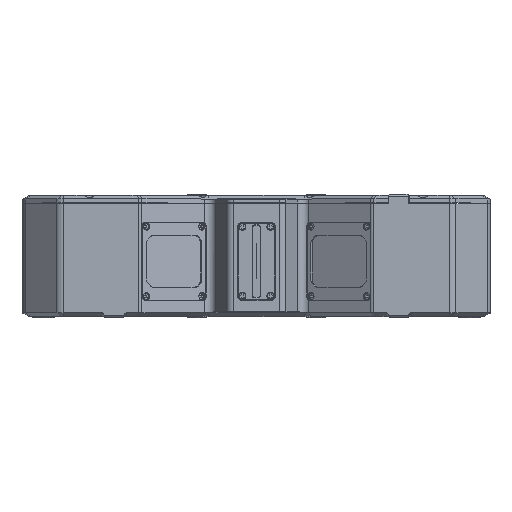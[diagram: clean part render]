
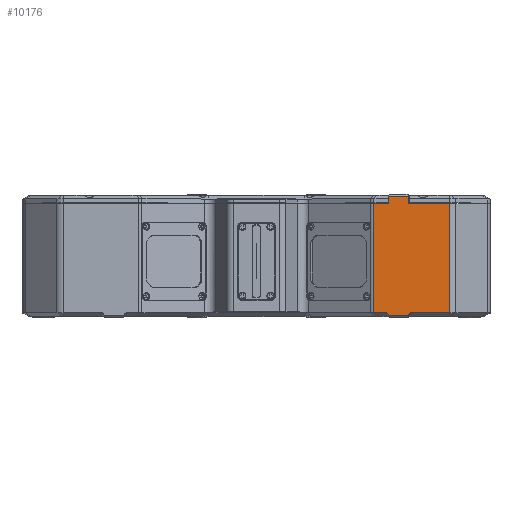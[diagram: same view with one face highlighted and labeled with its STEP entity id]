
A CAD part, top view. The second image highlights one B-rep face of the part: STEP entity #10176.
In plain terms, the highlighted planar face has unit normal (0, 0, -1).
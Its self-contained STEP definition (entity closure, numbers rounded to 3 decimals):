
#1533=DIRECTION('',(0.,1.,0.));
#1534=VECTOR('',#1533,59.5);
#1535=CARTESIAN_POINT('',(105.179,-26.75,53.));
#1536=LINE('',#1535,#1534);
#1546=DIRECTION('',(-1.,0.,0.));
#1547=VECTOR('',#1546,22.179);
#1548=CARTESIAN_POINT('',(105.179,32.75,53.));
#1549=LINE('',#1548,#1547);
#1550=DIRECTION('',(-1.,0.,0.));
#1551=VECTOR('',#1550,7.964);
#1552=CARTESIAN_POINT('',(72.,32.75,53.));
#1553=LINE('',#1552,#1551);
#1554=CARTESIAN_POINT('',(70.6,-26.75,53.));
#1555=CARTESIAN_POINT('',(70.629,-26.75,53.));
#1556=CARTESIAN_POINT('',(70.686,-26.752,53.));
#1557=CARTESIAN_POINT('',(70.774,-26.762,53.));
#1558=CARTESIAN_POINT('',(70.859,-26.777,53.));
#1559=CARTESIAN_POINT('',(70.943,-26.798,53.));
#1560=CARTESIAN_POINT('',(71.028,-26.826,53.));
#1561=CARTESIAN_POINT('',(71.111,-26.86,53.));
#1562=CARTESIAN_POINT('',(71.195,-26.902,53.));
#1563=CARTESIAN_POINT('',(71.274,-26.948,53.));
#1564=CARTESIAN_POINT('',(71.354,-27.003,53.));
#1565=CARTESIAN_POINT('',(71.429,-27.062,53.));
#1566=CARTESIAN_POINT('',(71.503,-27.129,53.));
#1567=CARTESIAN_POINT('',(71.574,-27.203,53.));
#1568=CARTESIAN_POINT('',(71.641,-27.282,53.));
#1569=CARTESIAN_POINT('',(71.704,-27.369,53.));
#1570=CARTESIAN_POINT('',(71.763,-27.462,53.));
#1571=CARTESIAN_POINT('',(71.816,-27.561,53.));
#1572=CARTESIAN_POINT('',(71.864,-27.666,53.));
#1573=CARTESIAN_POINT('',(71.905,-27.773,53.));
#1574=CARTESIAN_POINT('',(71.94,-27.891,53.));
#1575=CARTESIAN_POINT('',(71.968,-28.01,53.));
#1576=CARTESIAN_POINT('',(71.987,-28.131,53.));
#1577=CARTESIAN_POINT('',(71.994,-28.21,53.));
#1578=CARTESIAN_POINT('',(71.997,-28.25,53.));
#1580=CARTESIAN_POINT('',(83.003,-28.25,53.));
#1581=CARTESIAN_POINT('',(83.006,-28.211,53.));
#1582=CARTESIAN_POINT('',(83.013,-28.135,53.));
#1583=CARTESIAN_POINT('',(83.031,-28.019,53.));
#1584=CARTESIAN_POINT('',(83.056,-27.905,53.));
#1585=CARTESIAN_POINT('',(83.09,-27.791,53.));
#1586=CARTESIAN_POINT('',(83.127,-27.687,53.));
#1587=CARTESIAN_POINT('',(83.173,-27.584,53.));
#1588=CARTESIAN_POINT('',(83.224,-27.486,53.));
#1589=CARTESIAN_POINT('',(83.281,-27.392,53.));
#1590=CARTESIAN_POINT('',(83.343,-27.304,53.));
#1591=CARTESIAN_POINT('',(83.408,-27.222,53.));
#1592=CARTESIAN_POINT('',(83.478,-27.147,53.));
#1593=CARTESIAN_POINT('',(83.553,-27.077,53.));
#1594=CARTESIAN_POINT('',(83.628,-27.016,53.));
#1595=CARTESIAN_POINT('',(83.71,-26.958,53.));
#1596=CARTESIAN_POINT('',(83.791,-26.909,53.));
#1597=CARTESIAN_POINT('',(83.878,-26.865,53.));
#1598=CARTESIAN_POINT('',(83.963,-26.829,53.));
#1599=CARTESIAN_POINT('',(84.051,-26.8,53.));
#1600=CARTESIAN_POINT('',(84.138,-26.777,53.));
#1601=CARTESIAN_POINT('',(84.225,-26.762,53.));
#1602=CARTESIAN_POINT('',(84.314,-26.752,53.));
#1603=CARTESIAN_POINT('',(84.372,-26.75,53.));
#1604=CARTESIAN_POINT('',(84.4,-26.75,53.));
#1610=DIRECTION('',(-1.,0.,0.));
#1611=VECTOR('',#1610,20.779);
#1612=CARTESIAN_POINT('',(105.179,-26.75,53.));
#1613=LINE('',#1612,#1611);
#1618=DIRECTION('',(-1.,0.,0.));
#1619=VECTOR('',#1618,11.007);
#1620=CARTESIAN_POINT('',(83.003,-28.25,53.));
#1621=LINE('',#1620,#1619);
#1698=DIRECTION('',(-1.,0.,0.));
#1699=VECTOR('',#1698,6.542);
#1700=CARTESIAN_POINT('',(70.6,-26.75,53.));
#1701=LINE('',#1700,#1699);
#1710=CARTESIAN_POINT('',(64.036,-26.75,53.));
#1711=CARTESIAN_POINT('',(64.043,-26.75,53.));
#1712=CARTESIAN_POINT('',(64.051,-26.75,53.));
#1713=CARTESIAN_POINT('',(64.058,-26.75,53.));
#4591=DIRECTION('',(0.,-1.,0.));
#4592=VECTOR('',#4591,59.5);
#4593=CARTESIAN_POINT('',(64.036,32.75,53.));
#4594=LINE('',#4593,#4592);
#6465=DIRECTION('',(1.,0.,0.));
#6466=VECTOR('',#6465,11.);
#6467=CARTESIAN_POINT('',(72.,36.75,53.));
#6468=LINE('',#6467,#6466);
#6481=DIRECTION('',(0.,1.,0.));
#6482=VECTOR('',#6481,4.);
#6483=CARTESIAN_POINT('',(72.,32.75,53.));
#6484=LINE('',#6483,#6482);
#6517=DIRECTION('',(0.,-1.,0.));
#6518=VECTOR('',#6517,4.);
#6519=CARTESIAN_POINT('',(83.,36.75,53.));
#6520=LINE('',#6519,#6518);
#8410=CARTESIAN_POINT('',(105.179,32.75,53.));
#8411=CARTESIAN_POINT('',(83.,32.75,53.));
#8412=VERTEX_POINT('',#8410);
#8413=VERTEX_POINT('',#8411);
#8414=CARTESIAN_POINT('',(72.,32.75,53.));
#8415=CARTESIAN_POINT('',(64.036,32.75,53.));
#8416=VERTEX_POINT('',#8414);
#8417=VERTEX_POINT('',#8415);
#9048=CARTESIAN_POINT('',(105.179,-26.75,53.));
#9049=CARTESIAN_POINT('',(84.4,-26.75,53.));
#9050=VERTEX_POINT('',#9048);
#9051=VERTEX_POINT('',#9049);
#9052=VERTEX_POINT('',#1580);
#9053=CARTESIAN_POINT('',(71.997,-28.25,53.));
#9054=VERTEX_POINT('',#9053);
#9055=VERTEX_POINT('',#1554);
#9056=CARTESIAN_POINT('',(64.058,-26.75,53.));
#9057=VERTEX_POINT('',#9056);
#9058=VERTEX_POINT('',#1710);
#9059=CARTESIAN_POINT('',(72.,36.75,53.));
#9060=VERTEX_POINT('',#9059);
#9061=CARTESIAN_POINT('',(83.,36.75,53.));
#9062=VERTEX_POINT('',#9061);
#10144=CARTESIAN_POINT('',(84.607,4.25,53.));
#10145=DIRECTION('',(0.,0.,1.));
#10146=DIRECTION('',(1.,0.,0.));
#10147=AXIS2_PLACEMENT_3D('',#10144,#10145,#10146);
#10148=PLANE('',#10147);
#10150=ORIENTED_EDGE('',*,*,#10149,.F.);
#10151=ORIENTED_EDGE('',*,*,#10134,.T.);
#10153=ORIENTED_EDGE('',*,*,#10152,.T.);
#10155=ORIENTED_EDGE('',*,*,#10154,.F.);
#10157=ORIENTED_EDGE('',*,*,#10156,.F.);
#10159=ORIENTED_EDGE('',*,*,#10158,.F.);
#10161=ORIENTED_EDGE('',*,*,#10160,.T.);
#10163=ORIENTED_EDGE('',*,*,#10162,.T.);
#10165=ORIENTED_EDGE('',*,*,#10164,.T.);
#10167=ORIENTED_EDGE('',*,*,#10166,.F.);
#10169=ORIENTED_EDGE('',*,*,#10168,.T.);
#10171=ORIENTED_EDGE('',*,*,#10170,.F.);
#10173=ORIENTED_EDGE('',*,*,#10172,.T.);
#10174=EDGE_LOOP('',(#10150,#10151,#10153,#10155,#10157,#10159,#10161,#10163,
#10165,#10167,#10169,#10171,#10173));
#10175=FACE_OUTER_BOUND('',#10174,.F.);
#10176=ADVANCED_FACE('',(#10175),#10148,.F.);
#1579=B_SPLINE_CURVE_WITH_KNOTS('',3,(#1554,#1555,#1556,#1557,#1558,#1559,#1560,
#1561,#1562,#1563,#1564,#1565,#1566,#1567,#1568,#1569,#1570,#1571,#1572,#1573,
#1574,#1575,#1576,#1577,#1578),.UNSPECIFIED.,.F.,.F.,(4,1,1,1,1,1,1,1,1,1,1,1,1,
1,1,1,1,1,1,1,1,1,4),(0.,0.045,0.091,
0.136,0.182,0.227,0.273,
0.318,0.364,0.409,0.455,0.5,
0.545,0.591,0.636,0.682,
0.727,0.773,0.818,0.864,
0.909,0.955,1.),.UNSPECIFIED.);
#1605=B_SPLINE_CURVE_WITH_KNOTS('',3,(#1580,#1581,#1582,#1583,#1584,#1585,#1586,
#1587,#1588,#1589,#1590,#1591,#1592,#1593,#1594,#1595,#1596,#1597,#1598,#1599,
#1600,#1601,#1602,#1603,#1604),.UNSPECIFIED.,.F.,.F.,(4,1,1,1,1,1,1,1,1,1,1,1,1,
1,1,1,1,1,1,1,1,1,4),(0.,0.045,0.091,
0.136,0.182,0.227,0.273,
0.318,0.364,0.409,0.455,0.5,
0.545,0.591,0.636,0.682,
0.727,0.773,0.818,0.864,
0.909,0.955,1.),.UNSPECIFIED.);
#1714=B_SPLINE_CURVE_WITH_KNOTS('',3,(#1710,#1711,#1712,#1713),.UNSPECIFIED.,
.F.,.F.,(4,4),(0.,1.),.UNSPECIFIED.);
#10134=EDGE_CURVE('',#9050,#8412,#1536,.T.);
#10149=EDGE_CURVE('',#9050,#9051,#1613,.T.);
#10152=EDGE_CURVE('',#8412,#8413,#1549,.T.);
#10154=EDGE_CURVE('',#9062,#8413,#6520,.T.);
#10156=EDGE_CURVE('',#9060,#9062,#6468,.T.);
#10158=EDGE_CURVE('',#8416,#9060,#6484,.T.);
#10160=EDGE_CURVE('',#8416,#8417,#1553,.T.);
#10162=EDGE_CURVE('',#8417,#9058,#4594,.T.);
#10164=EDGE_CURVE('',#9058,#9057,#1714,.T.);
#10166=EDGE_CURVE('',#9055,#9057,#1701,.T.);
#10168=EDGE_CURVE('',#9055,#9054,#1579,.T.);
#10170=EDGE_CURVE('',#9052,#9054,#1621,.T.);
#10172=EDGE_CURVE('',#9052,#9051,#1605,.T.);
